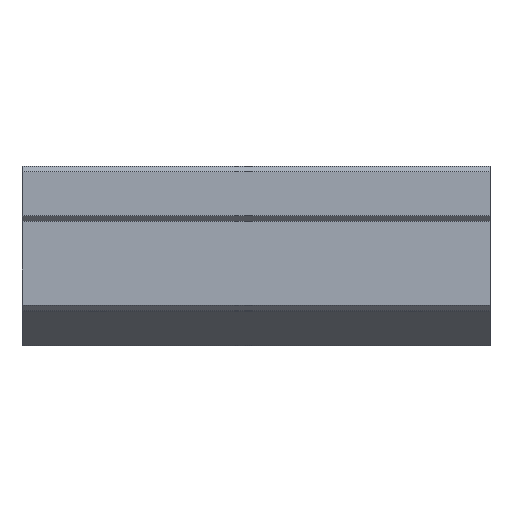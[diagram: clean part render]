
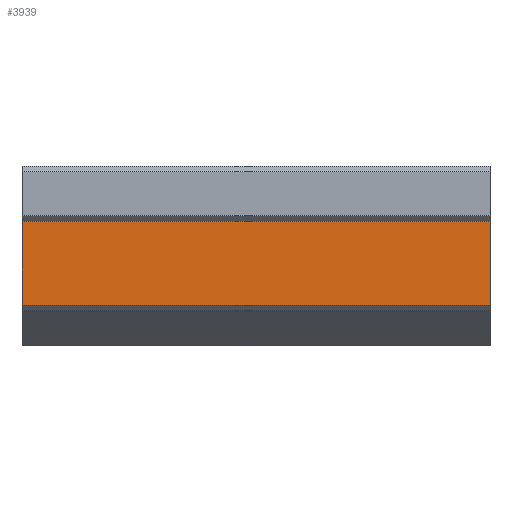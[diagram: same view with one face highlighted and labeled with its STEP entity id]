
A CAD part, top view. The second image highlights one B-rep face of the part: STEP entity #3939.
In plain terms, the highlighted planar face has unit normal (0, 0, 1).
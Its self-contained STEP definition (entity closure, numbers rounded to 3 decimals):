
#106 = PLANE('',#107);
#107 = AXIS2_PLACEMENT_3D('',#108,#109,#110);
#108 = CARTESIAN_POINT('',(34.,0.696,0.));
#109 = DIRECTION('',(1.,0.,0.));
#110 = DIRECTION('',(0.,0.,-1.));
#170 = PLANE('',#171);
#171 = AXIS2_PLACEMENT_3D('',#172,#173,#174);
#172 = CARTESIAN_POINT('',(-34.,0.696,0.));
#173 = DIRECTION('',(1.,0.,0.));
#174 = DIRECTION('',(0.,0.,-1.));
#3830 = PLANE('',#3831);
#3831 = AXIS2_PLACEMENT_3D('',#3832,#3833,#3834);
#3832 = CARTESIAN_POINT('',(-34.,-8.6,18.8));
#3833 = DIRECTION('',(0.,-0.707,0.707)
  );
#3834 = DIRECTION('',(0.,-0.707,-0.707)
  );
#3868 = VERTEX_POINT('',#3869);
#3869 = CARTESIAN_POINT('',(34.,-8.2,19.2));
#3890 = EDGE_CURVE('',#3891,#3868,#3893,.T.);
#3891 = VERTEX_POINT('',#3892);
#3892 = CARTESIAN_POINT('',(-34.,-8.2,19.2));
#3893 = SURFACE_CURVE('',#3894,(#3898,#3905),.PCURVE_S1.);
#3894 = LINE('',#3895,#3896);
#3895 = CARTESIAN_POINT('',(-34.,-8.2,19.2));
#3896 = VECTOR('',#3897,1.);
#3897 = DIRECTION('',(1.,0.,0.));
#3898 = PCURVE('',#3830,#3899);
#3899 = DEFINITIONAL_REPRESENTATION('',(#3900),#3904);
#3900 = LINE('',#3901,#3902);
#3901 = CARTESIAN_POINT('',(-0.566,0.));
#3902 = VECTOR('',#3903,1.);
#3903 = DIRECTION('',(0.,1.));
#3904 = ( GEOMETRIC_REPRESENTATION_CONTEXT(2) 
PARAMETRIC_REPRESENTATION_CONTEXT() REPRESENTATION_CONTEXT('2D SPACE',''
  ) );
#3905 = PCURVE('',#3906,#3911);
#3906 = PLANE('',#3907);
#3907 = AXIS2_PLACEMENT_3D('',#3908,#3909,#3910);
#3908 = CARTESIAN_POINT('',(-34.,-2.1,19.2));
#3909 = DIRECTION('',(0.,0.,1.));
#3910 = DIRECTION('',(0.,-1.,0.));
#3911 = DEFINITIONAL_REPRESENTATION('',(#3912),#3916);
#3912 = LINE('',#3913,#3914);
#3913 = CARTESIAN_POINT('',(6.1,0.));
#3914 = VECTOR('',#3915,1.);
#3915 = DIRECTION('',(0.,1.));
#3916 = ( GEOMETRIC_REPRESENTATION_CONTEXT(2) 
PARAMETRIC_REPRESENTATION_CONTEXT() REPRESENTATION_CONTEXT('2D SPACE',''
  ) );
#3939 = ADVANCED_FACE('',(#3940),#3906,.T.);
#3940 = FACE_BOUND('',#3941,.T.);
#3941 = EDGE_LOOP('',(#3942,#3965,#3993,#4014));
#3942 = ORIENTED_EDGE('',*,*,#3943,.T.);
#3943 = EDGE_CURVE('',#3868,#3944,#3946,.T.);
#3944 = VERTEX_POINT('',#3945);
#3945 = CARTESIAN_POINT('',(34.,4.,19.2));
#3946 = SURFACE_CURVE('',#3947,(#3951,#3958),.PCURVE_S1.);
#3947 = LINE('',#3948,#3949);
#3948 = CARTESIAN_POINT('',(34.,4.,19.2));
#3949 = VECTOR('',#3950,1.);
#3950 = DIRECTION('',(0.,1.,0.));
#3951 = PCURVE('',#3906,#3952);
#3952 = DEFINITIONAL_REPRESENTATION('',(#3953),#3957);
#3953 = LINE('',#3954,#3955);
#3954 = CARTESIAN_POINT('',(-6.1,68.));
#3955 = VECTOR('',#3956,1.);
#3956 = DIRECTION('',(-1.,0.));
#3957 = ( GEOMETRIC_REPRESENTATION_CONTEXT(2) 
PARAMETRIC_REPRESENTATION_CONTEXT() REPRESENTATION_CONTEXT('2D SPACE',''
  ) );
#3958 = PCURVE('',#106,#3959);
#3959 = DEFINITIONAL_REPRESENTATION('',(#3960),#3964);
#3960 = LINE('',#3961,#3962);
#3961 = CARTESIAN_POINT('',(-19.2,3.304));
#3962 = VECTOR('',#3963,1.);
#3963 = DIRECTION('',(0.,1.));
#3964 = ( GEOMETRIC_REPRESENTATION_CONTEXT(2) 
PARAMETRIC_REPRESENTATION_CONTEXT() REPRESENTATION_CONTEXT('2D SPACE',''
  ) );
#3965 = ORIENTED_EDGE('',*,*,#3966,.F.);
#3966 = EDGE_CURVE('',#3967,#3944,#3969,.T.);
#3967 = VERTEX_POINT('',#3968);
#3968 = CARTESIAN_POINT('',(-34.,4.,19.2));
#3969 = SURFACE_CURVE('',#3970,(#3974,#3981),.PCURVE_S1.);
#3970 = LINE('',#3971,#3972);
#3971 = CARTESIAN_POINT('',(-34.,4.,19.2));
#3972 = VECTOR('',#3973,1.);
#3973 = DIRECTION('',(1.,0.,0.));
#3974 = PCURVE('',#3906,#3975);
#3975 = DEFINITIONAL_REPRESENTATION('',(#3976),#3980);
#3976 = LINE('',#3977,#3978);
#3977 = CARTESIAN_POINT('',(-6.1,0.));
#3978 = VECTOR('',#3979,1.);
#3979 = DIRECTION('',(0.,1.));
#3980 = ( GEOMETRIC_REPRESENTATION_CONTEXT(2) 
PARAMETRIC_REPRESENTATION_CONTEXT() REPRESENTATION_CONTEXT('2D SPACE',''
  ) );
#3981 = PCURVE('',#3982,#3987);
#3982 = PLANE('',#3983);
#3983 = AXIS2_PLACEMENT_3D('',#3984,#3985,#3986);
#3984 = CARTESIAN_POINT('',(-34.,4.4,19.6));
#3985 = DIRECTION('',(0.,-0.707,0.707)
  );
#3986 = DIRECTION('',(0.,-0.707,-0.707)
  );
#3987 = DEFINITIONAL_REPRESENTATION('',(#3988),#3992);
#3988 = LINE('',#3989,#3990);
#3989 = CARTESIAN_POINT('',(0.566,0.));
#3990 = VECTOR('',#3991,1.);
#3991 = DIRECTION('',(0.,1.));
#3992 = ( GEOMETRIC_REPRESENTATION_CONTEXT(2) 
PARAMETRIC_REPRESENTATION_CONTEXT() REPRESENTATION_CONTEXT('2D SPACE',''
  ) );
#3993 = ORIENTED_EDGE('',*,*,#3994,.T.);
#3994 = EDGE_CURVE('',#3967,#3891,#3995,.T.);
#3995 = SURFACE_CURVE('',#3996,(#4000,#4007),.PCURVE_S1.);
#3996 = LINE('',#3997,#3998);
#3997 = CARTESIAN_POINT('',(-34.,4.,19.2));
#3998 = VECTOR('',#3999,1.);
#3999 = DIRECTION('',(0.,-1.,0.));
#4000 = PCURVE('',#3906,#4001);
#4001 = DEFINITIONAL_REPRESENTATION('',(#4002),#4006);
#4002 = LINE('',#4003,#4004);
#4003 = CARTESIAN_POINT('',(-6.1,0.));
#4004 = VECTOR('',#4005,1.);
#4005 = DIRECTION('',(1.,0.));
#4006 = ( GEOMETRIC_REPRESENTATION_CONTEXT(2) 
PARAMETRIC_REPRESENTATION_CONTEXT() REPRESENTATION_CONTEXT('2D SPACE',''
  ) );
#4007 = PCURVE('',#170,#4008);
#4008 = DEFINITIONAL_REPRESENTATION('',(#4009),#4013);
#4009 = LINE('',#4010,#4011);
#4010 = CARTESIAN_POINT('',(-19.2,3.304));
#4011 = VECTOR('',#4012,1.);
#4012 = DIRECTION('',(0.,-1.));
#4013 = ( GEOMETRIC_REPRESENTATION_CONTEXT(2) 
PARAMETRIC_REPRESENTATION_CONTEXT() REPRESENTATION_CONTEXT('2D SPACE',''
  ) );
#4014 = ORIENTED_EDGE('',*,*,#3890,.T.);
